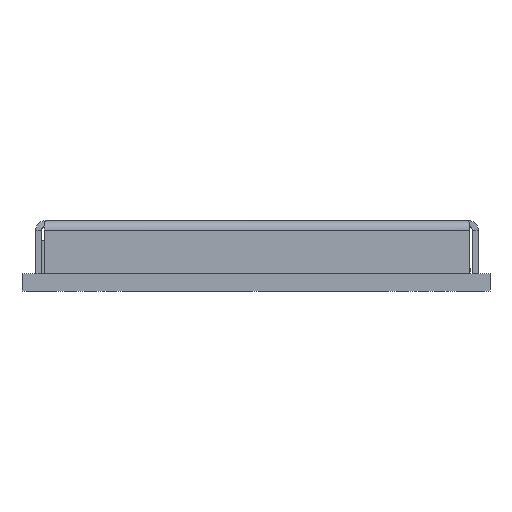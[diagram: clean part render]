
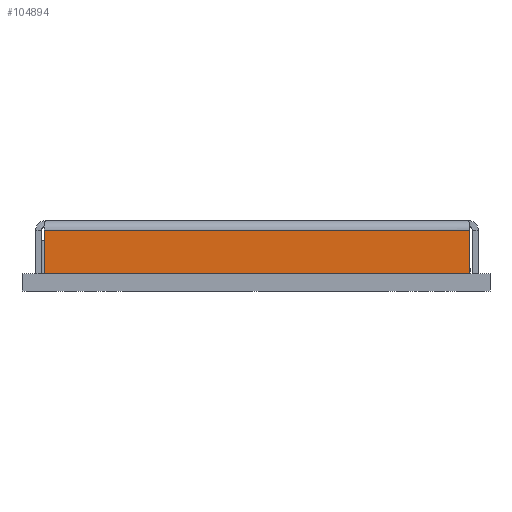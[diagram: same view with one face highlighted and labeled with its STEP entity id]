
A CAD part, front view. The second image highlights one B-rep face of the part: STEP entity #104894.
In plain terms, the highlighted planar face has unit normal (0, -1, 0).
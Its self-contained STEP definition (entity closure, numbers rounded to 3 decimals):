
#736 = CARTESIAN_POINT ( 'NONE',  ( 11.697, 0.354, 1.36 ) ) ;
#1577 = CARTESIAN_POINT ( 'NONE',  ( 11.697, 0.354, 0. ) ) ;
#6195 = CARTESIAN_POINT ( 'NONE',  ( 11.477, 0.354, 0. ) ) ;
#21943 = VERTEX_POINT ( 'NONE', #226472 ) ;
#22087 = DIRECTION ( 'NONE',  ( -1., 0., 0. ) ) ;
#27226 = CARTESIAN_POINT ( 'NONE',  ( 11.697, 0.354, 1.11 ) ) ;
#37659 = VERTEX_POINT ( 'NONE', #55077 ) ;
#41801 = ORIENTED_EDGE ( 'NONE', *, *, #65451, .T. ) ;
#42447 = EDGE_LOOP ( 'NONE', ( #251717, #242236, #215863, #41801 ) ) ;
#45308 = VECTOR ( 'NONE', #214533, 1000. ) ;
#49851 = CARTESIAN_POINT ( 'NONE',  ( 0.574, 0.354, 0. ) ) ;
#55077 = CARTESIAN_POINT ( 'NONE',  ( 11.477, 0.354, 1.11 ) ) ;
#61726 = PLANE ( 'NONE',  #146130 ) ;
#65451 = EDGE_CURVE ( 'NONE', #252748, #171749, #141712, .T. ) ;
#80886 = DIRECTION ( 'NONE',  ( 1., 0., 0. ) ) ;
#91936 = EDGE_CURVE ( 'NONE', #37659, #21943, #106424, .T. ) ;
#104894 = ADVANCED_FACE ( 'NONE', ( #256724 ), #61726, .F. ) ;
#106424 = LINE ( 'NONE', #27226, #184698 ) ;
#106478 = DIRECTION ( 'NONE',  ( 0., 0., -1. ) ) ;
#121440 = EDGE_CURVE ( 'NONE', #21943, #252748, #155922, .T. ) ;
#141712 = LINE ( 'NONE', #1577, #206142 ) ;
#146130 = AXIS2_PLACEMENT_3D ( 'NONE', #736, #159064, #217804 ) ;
#155922 = LINE ( 'NONE', #176827, #217458 ) ;
#159064 = DIRECTION ( 'NONE',  ( 0., 1., 0. ) ) ;
#171749 = VERTEX_POINT ( 'NONE', #6195 ) ;
#172860 = CARTESIAN_POINT ( 'NONE',  ( 11.477, 0.354, 1.36 ) ) ;
#173749 = EDGE_CURVE ( 'NONE', #171749, #37659, #253481, .T. ) ;
#176827 = CARTESIAN_POINT ( 'NONE',  ( 0.574, 0.354, 1.36 ) ) ;
#184698 = VECTOR ( 'NONE', #22087, 1000. ) ;
#206142 = VECTOR ( 'NONE', #80886, 1000. ) ;
#214533 = DIRECTION ( 'NONE',  ( 0., 0., 1. ) ) ;
#215863 = ORIENTED_EDGE ( 'NONE', *, *, #121440, .T. ) ;
#217458 = VECTOR ( 'NONE', #106478, 1000. ) ;
#217804 = DIRECTION ( 'NONE',  ( 0., 0., 1. ) ) ;
#226472 = CARTESIAN_POINT ( 'NONE',  ( 0.574, 0.354, 1.11 ) ) ;
#242236 = ORIENTED_EDGE ( 'NONE', *, *, #91936, .T. ) ;
#251717 = ORIENTED_EDGE ( 'NONE', *, *, #173749, .T. ) ;
#252748 = VERTEX_POINT ( 'NONE', #49851 ) ;
#253481 = LINE ( 'NONE', #172860, #45308 ) ;
#256724 = FACE_OUTER_BOUND ( 'NONE', #42447, .T. ) ;
